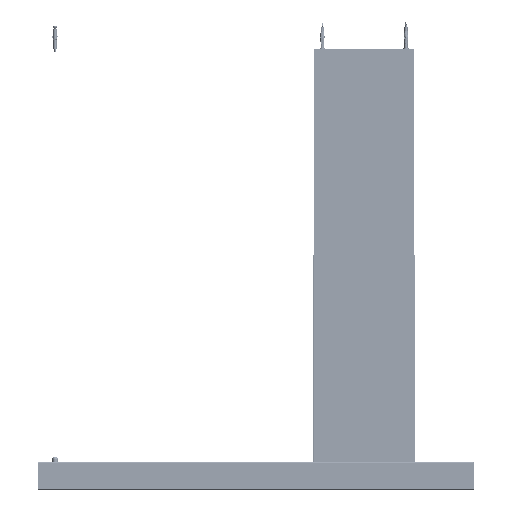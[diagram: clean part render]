
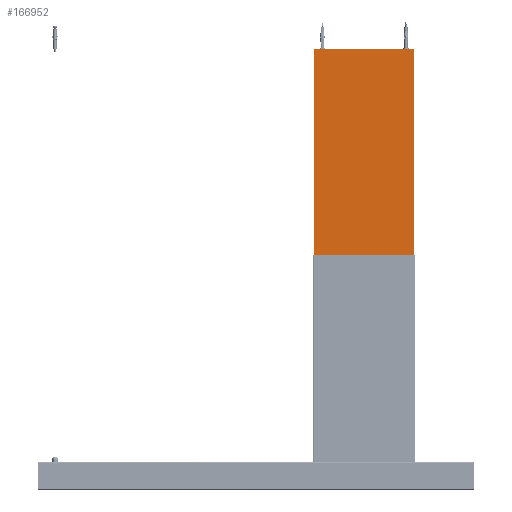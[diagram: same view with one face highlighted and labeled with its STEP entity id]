
A CAD part, top view. The second image highlights one B-rep face of the part: STEP entity #166952.
In plain terms, the highlighted planar face has unit normal (0, 0, 1) as drawn and (0, 0, -1) by its records, which use the part's own axes.
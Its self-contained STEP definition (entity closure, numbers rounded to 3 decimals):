
#166835=CARTESIAN_POINT('Vertex',(-136.7,0.,-134.5)) ;
#166842=CARTESIAN_POINT('Vertex',(-136.7,620.,-134.5)) ;
#166845=CARTESIAN_POINT('Line Origine',(-136.7,620.,-134.5)) ;
#166922=CARTESIAN_POINT('Axis2P3D Location',(-138.,620.,-134.5)) ;
#166927=CARTESIAN_POINT('Line Origine',(0.,0.,-134.5)) ;
#166931=CARTESIAN_POINT('Vertex',(136.7,0.,-134.5)) ;
#166934=CARTESIAN_POINT('Line Origine',(0.,620.,-134.5)) ;
#166938=CARTESIAN_POINT('Vertex',(136.7,620.,-134.5)) ;
#166941=CARTESIAN_POINT('Line Origine',(136.7,310.,-134.5)) ;
#166846=DIRECTION('Vector Direction',(0.,-1.,0.)) ;
#166923=DIRECTION('Axis2P3D Direction',(0.,0.,-1.)) ;
#166924=DIRECTION('Axis2P3D XDirection',(-1.,0.,-0.)) ;
#166928=DIRECTION('Vector Direction',(1.,0.,0.)) ;
#166935=DIRECTION('Vector Direction',(1.,0.,0.)) ;
#166942=DIRECTION('Vector Direction',(0.,-1.,0.)) ;
#166925=AXIS2_PLACEMENT_3D('Plane Axis2P3D',#166922,#166923,#166924) ;
#166947=ORIENTED_EDGE('',*,*,#166933,.F.) ;
#166948=ORIENTED_EDGE('',*,*,#166849,.F.) ;
#166949=ORIENTED_EDGE('',*,*,#166940,.T.) ;
#166950=ORIENTED_EDGE('',*,*,#166945,.T.) ;
#166847=VECTOR('Line Direction',#166846,1.) ;
#166929=VECTOR('Line Direction',#166928,1.) ;
#166936=VECTOR('Line Direction',#166935,1.) ;
#166943=VECTOR('Line Direction',#166942,1.) ;
#166952=ADVANCED_FACE('Ripetizione a L1',(#166951),#166926,.T.) ;
#166849=EDGE_CURVE('',#166843,#166836,#166848,.T.) ;
#166933=EDGE_CURVE('',#166836,#166932,#166930,.T.) ;
#166940=EDGE_CURVE('',#166843,#166939,#166937,.T.) ;
#166945=EDGE_CURVE('',#166939,#166932,#166944,.T.) ;
#166946=EDGE_LOOP('',(#166947,#166948,#166949,#166950)) ;
#166951=FACE_OUTER_BOUND('',#166946,.T.) ;
#166848=LINE('Line',#166845,#166847) ;
#166930=LINE('Line',#166927,#166929) ;
#166937=LINE('Line',#166934,#166936) ;
#166944=LINE('Line',#166941,#166943) ;
#166926=PLANE('',#166925) ;
#166836=VERTEX_POINT('',#166835) ;
#166843=VERTEX_POINT('',#166842) ;
#166932=VERTEX_POINT('',#166931) ;
#166939=VERTEX_POINT('',#166938) ;
